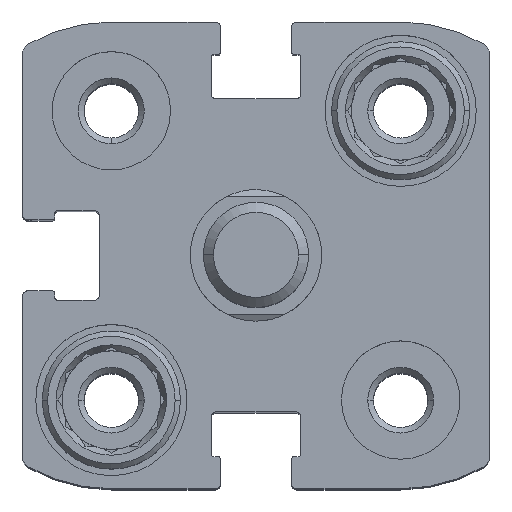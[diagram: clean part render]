
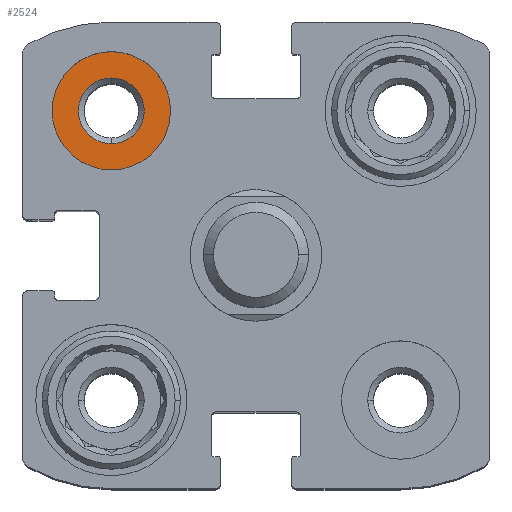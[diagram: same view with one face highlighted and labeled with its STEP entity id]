
A CAD part, top view. The second image highlights one B-rep face of the part: STEP entity #2524.
In plain terms, the highlighted planar face has unit normal (0, 0, 1).
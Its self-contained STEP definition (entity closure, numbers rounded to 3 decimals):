
#512 = AXIS2_PLACEMENT_3D ( 'NONE', #5754, #3713, #7859 ) ;
#575 = DIRECTION ( 'NONE',  ( 0., 1., 0. ) ) ;
#807 = VERTEX_POINT ( 'NONE', #4006 ) ;
#1643 = EDGE_LOOP ( 'NONE', ( #6031, #5819 ) ) ;
#2524 = ADVANCED_FACE ( 'NONE', ( #9364, #11197 ), #7057, .T. ) ;
#2740 = VERTEX_POINT ( 'NONE', #3301 ) ;
#2790 = CARTESIAN_POINT ( 'NONE',  ( -11., 11., -4.8 ) ) ;
#3301 = CARTESIAN_POINT ( 'NONE',  ( -11., 15.5, -4.8 ) ) ;
#3399 = AXIS2_PLACEMENT_3D ( 'NONE', #9017, #7555, #6910 ) ;
#3713 = DIRECTION ( 'NONE',  ( 0., 0., -1. ) ) ;
#4006 = CARTESIAN_POINT ( 'NONE',  ( -11., 6.5, -4.8 ) ) ;
#4525 = ORIENTED_EDGE ( 'NONE', *, *, #12823, .F. ) ;
#4832 = CIRCLE ( 'NONE', #12438, 4.5 ) ;
#5296 = EDGE_CURVE ( 'NONE', #2740, #807, #10508, .T. ) ;
#5754 = CARTESIAN_POINT ( 'NONE',  ( -11., 11., -4.8 ) ) ;
#5811 = CARTESIAN_POINT ( 'NONE',  ( -11., 8.5, -4.8 ) ) ;
#5819 = ORIENTED_EDGE ( 'NONE', *, *, #8684, .T. ) ;
#6031 = ORIENTED_EDGE ( 'NONE', *, *, #7539, .T. ) ;
#6110 = AXIS2_PLACEMENT_3D ( 'NONE', #9163, #13224, #7130 ) ;
#6894 = AXIS2_PLACEMENT_3D ( 'NONE', #8748, #9834, #575 ) ;
#6910 = DIRECTION ( 'NONE',  ( 0., 1., 0. ) ) ;
#7057 = PLANE ( 'NONE',  #6110 ) ;
#7130 = DIRECTION ( 'NONE',  ( 1., 0., 0. ) ) ;
#7539 = EDGE_CURVE ( 'NONE', #9229, #12465, #11235, .T. ) ;
#7555 = DIRECTION ( 'NONE',  ( 0., 0., -1. ) ) ;
#7859 = DIRECTION ( 'NONE',  ( 0., 1., 0. ) ) ;
#7928 = CARTESIAN_POINT ( 'NONE',  ( -11., 13.5, -4.8 ) ) ;
#8092 = DIRECTION ( 'NONE',  ( 0., 0., -1. ) ) ;
#8684 = EDGE_CURVE ( 'NONE', #12465, #9229, #9274, .T. ) ;
#8748 = CARTESIAN_POINT ( 'NONE',  ( -11., 11., -4.8 ) ) ;
#9017 = CARTESIAN_POINT ( 'NONE',  ( -11., 11., -4.8 ) ) ;
#9163 = CARTESIAN_POINT ( 'NONE',  ( -11., 15.5, -4.8 ) ) ;
#9229 = VERTEX_POINT ( 'NONE', #5811 ) ;
#9274 = CIRCLE ( 'NONE', #3399, 2.5 ) ;
#9364 = FACE_OUTER_BOUND ( 'NONE', #12850, .T. ) ;
#9834 = DIRECTION ( 'NONE',  ( 0., 0., -1. ) ) ;
#10066 = DIRECTION ( 'NONE',  ( 0., 1., 0. ) ) ;
#10508 = CIRCLE ( 'NONE', #512, 4.5 ) ;
#11197 = FACE_BOUND ( 'NONE', #1643, .T. ) ;
#11235 = CIRCLE ( 'NONE', #6894, 2.5 ) ;
#12438 = AXIS2_PLACEMENT_3D ( 'NONE', #2790, #8092, #10066 ) ;
#12465 = VERTEX_POINT ( 'NONE', #7928 ) ;
#12823 = EDGE_CURVE ( 'NONE', #807, #2740, #4832, .T. ) ;
#12850 = EDGE_LOOP ( 'NONE', ( #13025, #4525 ) ) ;
#13025 = ORIENTED_EDGE ( 'NONE', *, *, #5296, .F. ) ;
#13224 = DIRECTION ( 'NONE',  ( 0., 0., 1. ) ) ;
